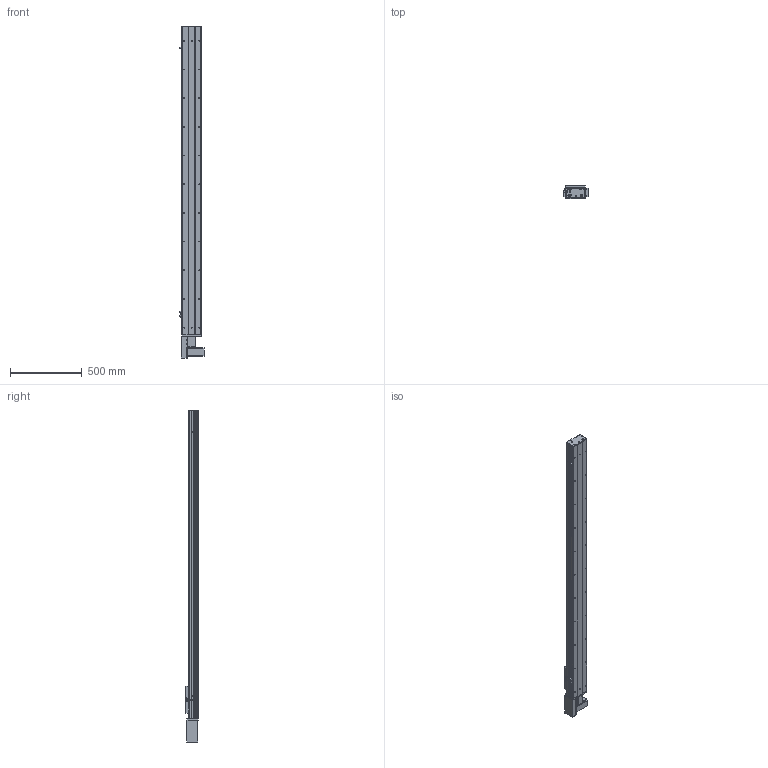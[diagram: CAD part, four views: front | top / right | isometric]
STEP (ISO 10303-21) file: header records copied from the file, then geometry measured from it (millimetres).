
FILE_DESCRIPTION (( 'STEP AP203' ), '1' );
FILE_NAME ('Y135CB-D90-S1850-BR-P400W.STEP', '2020-02-18T02:51:22', ( '微软用户' ), ( '微软中国' ), 'SwSTEP 2.0', 'SolidWorks 2017', '' );
FILE_SCHEMA (( 'CONFIG_CONTROL_DESIGN' ));
Length unit declared in the file: millimetre
Products named in the file (18): Y135C-陔俋离換覜結え-; 0B-埴倛裔啣; 5C--俋欶; 0B-源倛裔啣; C-雄赽釱--; 0B-萇儂楊擘啣; Y10B--々湍喘謫眊--666; san松下电机400不带刹车----; Y135CB-耜裔; Y135CB-D90-S1850-BR-P400W; 5CB --掛极耜裔啣-; 135CB---遴掛极.-; C-詩湍揤踡え-陔; 35CB---喘謫眊楊擘啣; 135CB--詩湍-CE; Y10B-耜蚾蟀諉啣----; Y100-135俋离換覜ん--; Y俋欶BR----
Assembly tree (21 placements, depth 2):
  Y135CB-D90-S1850-BR-P400W
    Y135CB-耜裔
    135CB---遴掛极.-
    35CB---喘謫眊楊擘啣
    Y10B-耜蚾蟀諉啣----
    Y俋欶BR----
    0B-埴倛裔啣
    0B-源倛裔啣
    0B-萇儂楊擘啣
    san松下电机400不带刹车----
    5CB --掛极耜裔啣-  x2
    C-詩湍揤踡え-陔  x2
    135CB--詩湍-CE
    Y100-135俋离換覜ん--  x3
    Y135C-陔俋离換覜結え-
    5C--俋欶
    C-雄赽釱--
    Y10B--々湍喘謫眊--666
Bounding box: 167.5 x 91 x 2314.5 mm (x, y, z)
Volume: 6594733.8 mm3; surface area: 2603443.5 mm2
Topology: 21 solids, 21 shells, 961 faces, 2599 edges, 1722 vertices
Faces by surface type: cylinder 487, plane 458, cone 16
Entity records: 30149 total; most frequent: DIRECTION 5007, CARTESIAN_POINT 4988, ORIENTED_EDGE 4674, EDGE_CURVE 2337, AXIS2_PLACEMENT_3D 1829, VERTEX_POINT 1550, LINE 1349, VECTOR 1349
